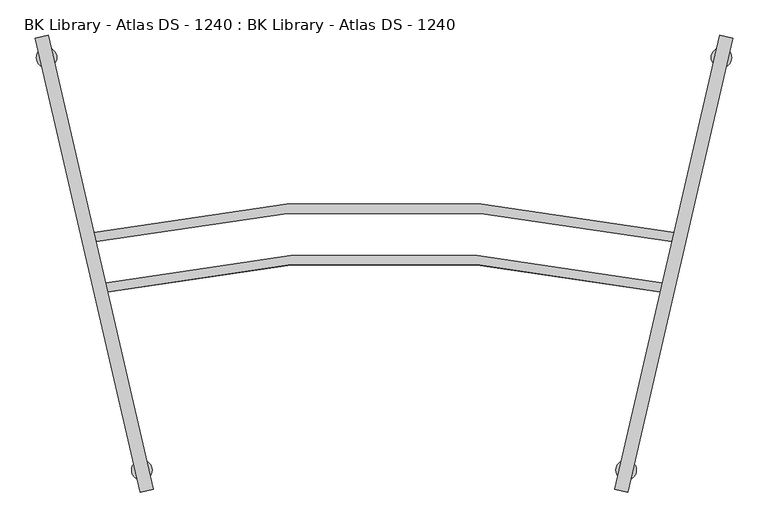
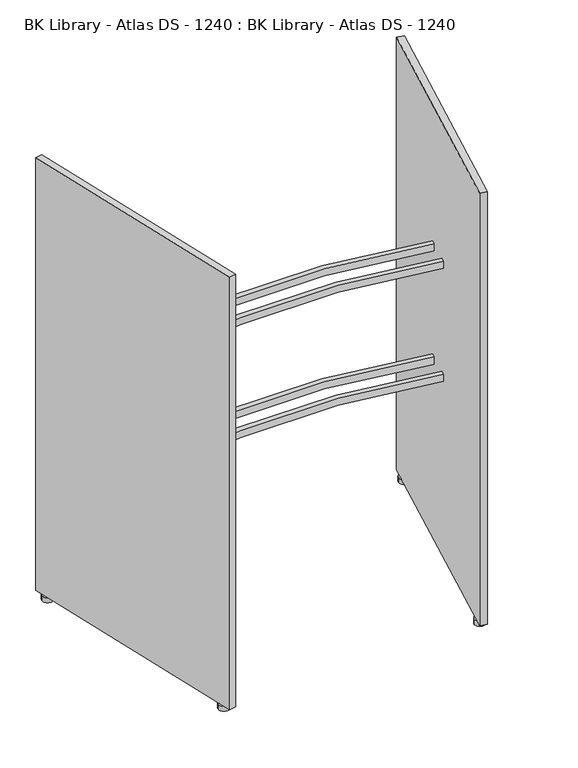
"""IFC4 building model written with IfcOpenShell, lengths in millimetres: furniture geometry, BK Library - Atlas DS - 1240 : BK Library - Atlas DS - 1240."""

from ifc_helpers import new_model, si_unit, point, frame, frame_2d, origin, origin_with_axes, place, context, project, spatial, polyline, circle_curve, trimmed, segment, composite_curve, outline, extrude, source, transform, mapped, element, save


def bk_library_atlas_ds_1240_bk_library_atlas_ds_1240_f50a3288(model_context):
    return source(origin(), model_context, "Body", "SweptSolid", [
        extrude(outline(composite_curve([segment(trimmed(circle_curve(frame_2d((0.0, -1785.1487517)), 1799.627579), [point((-394.2058088, -29.2269986))], [point((394.2058088, -29.2269986))], False, "CARTESIAN"), True, "CONTINUOUS"), segment(polyline([(394.2058088, -29.2269986), (391.2848087, -41.8943694)]), True, "CONTINUOUS"), segment(trimmed(circle_curve(frame_2d((0.0, -1790.5831955)), 1791.9309172), [point((391.2848087, -41.8943694))], [point((-391.2848087, -41.8943694))], True, "CARTESIAN"), True, "CONTINUOUS"), segment(polyline([(-391.2848087, -41.8943694), (-394.2058088, -29.2269986)]), True, "CONTINUOUS")], self_intersect=False)), frame((0.0, 0.0, 513.6999998), z_axis=(0.0, 0.0, 1.0), x_axis=(1.0, 0.0, 0.0)), (0.0, 0.0, 1.0), 20.0),
        extrude(outline(composite_curve([segment(trimmed(circle_curve(frame_2d((0.0, -1776.6858327)), 1864.3585062), [point((-410.605951, 41.8947656))], [point((410.605951, 41.8947656))], False, "CARTESIAN"), True, "CONTINUOUS"), segment(polyline([(410.605951, 41.8947656), (407.6853202, 29.2289965)]), True, "CONTINUOUS"), segment(trimmed(circle_curve(frame_2d((0.0, -1798.2835703)), 1872.4341116), [point((407.6853202, 29.2289965))], [point((-407.6853202, 29.2289965))], True, "CARTESIAN"), True, "CONTINUOUS"), segment(polyline([(-407.6853202, 29.2289965), (-410.605951, 41.8947656)]), True, "CONTINUOUS")], self_intersect=False)), frame((0.0, 0.0, 513.6999998), z_axis=(0.0, 0.0, 1.0), x_axis=(1.0, 0.0, 0.0)), (0.0, 0.0, 1.0), 20.0),
        extrude(outline(composite_curve([segment(trimmed(circle_curve(frame_2d((0.0, -1785.1487517)), 1799.627579), [point((-394.2058088, -29.2269986))], [point((394.2058088, -29.2269986))], False, "CARTESIAN"), True, "CONTINUOUS"), segment(polyline([(394.2058088, -29.2269986), (391.2848087, -41.8943694)]), True, "CONTINUOUS"), segment(trimmed(circle_curve(frame_2d((0.0, -1790.5831955)), 1791.9309172), [point((391.2848087, -41.8943694))], [point((-391.2848087, -41.8943694))], True, "CARTESIAN"), True, "CONTINUOUS"), segment(polyline([(-391.2848087, -41.8943694), (-394.2058088, -29.2269986)]), True, "CONTINUOUS")], self_intersect=False)), frame((0.0, 0.0, 833.6999998), z_axis=(0.0, 0.0, 1.0), x_axis=(1.0, 0.0, 0.0)), (0.0, 0.0, 1.0), 20.0),
        extrude(outline(composite_curve([segment(trimmed(circle_curve(frame_2d((0.0, -1776.6858327)), 1864.3585062), [point((-410.605951, 41.8947656))], [point((410.605951, 41.8947656))], False, "CARTESIAN"), True, "CONTINUOUS"), segment(polyline([(410.605951, 41.8947656), (407.6853202, 29.2289965)]), True, "CONTINUOUS"), segment(trimmed(circle_curve(frame_2d((0.0, -1798.2835703)), 1872.4341116), [point((407.6853202, 29.2289965))], [point((-407.6853202, 29.2289965))], True, "CARTESIAN"), True, "CONTINUOUS"), segment(polyline([(-407.6853202, 29.2289965), (-410.605951, 41.8947656)]), True, "CONTINUOUS")], self_intersect=False)), frame((0.0, 0.0, 833.6999998), z_axis=(0.0, 0.0, 1.0), x_axis=(1.0, 0.0, 0.0)), (0.0, 0.0, 1.0), 20.0),
        extrude(outline(polyline([(-345.3098178, -325.8307679), (-493.6091495, 317.2923215), (-475.095, 321.5615447), (-326.7956683, -321.5615447), (-345.3098178, -325.8307679)])), frame((0.0, 0.0, 13.6999998), z_axis=(0.0, 0.0, 1.0), x_axis=(1.0, 0.0, 0.0)), (0.0, 0.0, 1.0), 1224.0),
        extrude(outline(polyline([(475.095, 321.5615447), (493.6091495, 317.2923215), (345.3098178, -325.8307679), (326.7956683, -321.5615447), (475.095, 321.5615447)])), frame((0.0, 0.0, 13.6999998), z_axis=(0.0, 0.0, 1.0), x_axis=(1.0, 0.0, 0.0)), (0.0, 0.0, 1.0), 1224.0),
        extrude(outline(composite_curve([segment(trimmed(circle_curve(frame_2d((477.608406, 290.1883722)), 14.4994573), [point((492.1078633, 290.1883722))], [point((463.1089486, 290.1883722))], False, "CARTESIAN"), True, "CONTINUOUS"), segment(trimmed(circle_curve(frame_2d((477.608406, 290.1883722)), 14.4994573), [point((463.1089486, 290.1883722))], [point((492.1078633, 290.1883722))], False, "CARTESIAN"), True, "CONTINUOUS")], self_intersect=False)), origin_with_axes(), (0.0, 0.0, 1.0), 13.6999998),
        extrude(outline(composite_curve([segment(trimmed(circle_curve(frame_2d((-477.608406, 290.1883722)), 14.4994573), [point((-492.1078633, 290.1883722))], [point((-463.1089486, 290.1883722))], False, "CARTESIAN"), True, "CONTINUOUS"), segment(trimmed(circle_curve(frame_2d((-477.608406, 290.1883722)), 14.4994573), [point((-463.1089486, 290.1883722))], [point((-492.1078633, 290.1883722))], False, "CARTESIAN"), True, "CONTINUOUS")], self_intersect=False)), origin_with_axes(), (0.0, 0.0, 1.0), 13.6999998),
        extrude(outline(composite_curve([segment(trimmed(circle_curve(frame_2d((342.7923392, -294.4590973)), 14.4994573), [point((357.2917965, -294.4590973))], [point((328.2928818, -294.4590973))], False, "CARTESIAN"), True, "CONTINUOUS"), segment(trimmed(circle_curve(frame_2d((342.7923392, -294.4590973)), 14.4994573), [point((328.2928818, -294.4590973))], [point((357.2917965, -294.4590973))], False, "CARTESIAN"), True, "CONTINUOUS")], self_intersect=False)), origin_with_axes(), (0.0, 0.0, 1.0), 13.6999998),
        extrude(outline(composite_curve([segment(trimmed(circle_curve(frame_2d((-342.7923392, -294.4590973)), 14.4994573), [point((-357.2917965, -294.4590973))], [point((-328.2928818, -294.4590973))], False, "CARTESIAN"), True, "CONTINUOUS"), segment(trimmed(circle_curve(frame_2d((-342.7923392, -294.4590973)), 14.4994573), [point((-328.2928818, -294.4590973))], [point((-357.2917965, -294.4590973))], False, "CARTESIAN"), True, "CONTINUOUS")], self_intersect=False)), origin_with_axes(), (0.0, 0.0, 1.0), 13.6999998),
    ])


if __name__ == "__main__":
    model = new_model("IFC4")
    model_context = context("Model", 3, world=origin())
    ifc_project = project(units=[si_unit("LENGTHUNIT", "METRE", prefix="MILLI")], contexts=[model_context])
    site = spatial("IfcSite", under=ifc_project)
    building = spatial("IfcBuilding", under=site)
    placement = place(None, origin())
    bk_library_atlas_ds_1240_bk_library_atlas_ds_1240_shape = bk_library_atlas_ds_1240_bk_library_atlas_ds_1240_f50a3288(model_context)
    element("IfcFurniture", 1, ObjectType="BK Library - Atlas DS - 1240 : BK Library - Atlas DS - 1240", at=placement, inside=building, context=model_context, shape_type="MappedRepresentation", body=[
        mapped(bk_library_atlas_ds_1240_bk_library_atlas_ds_1240_shape, transform((0.0, 0.0, 0.0), x_axis=(1.0, 0.0, 0.0), y_axis=(0.0, 1.0, 0.0), z_axis=(0.0, 0.0, 1.0))),
    ])
    save(model, "model.ifc")
